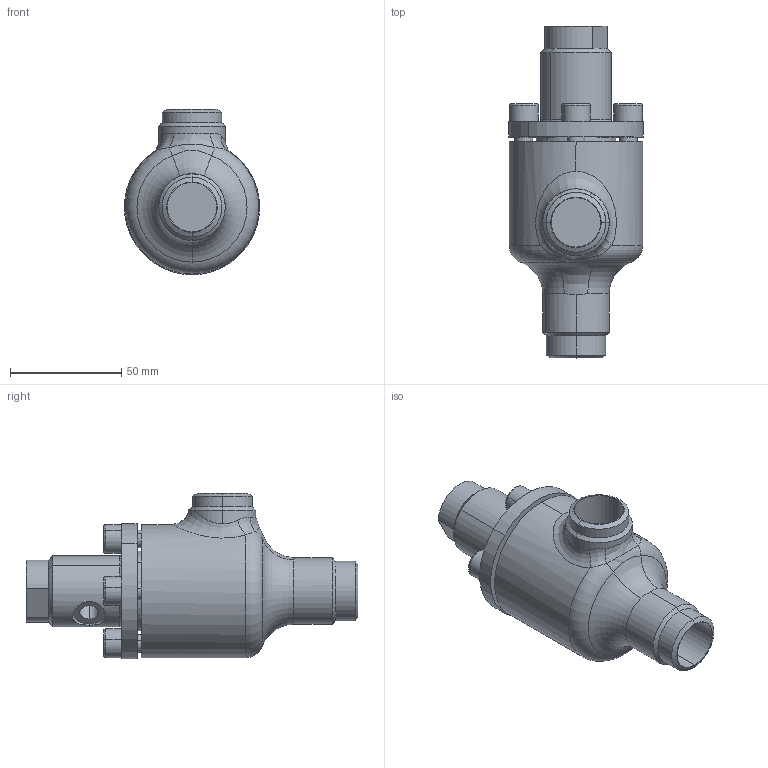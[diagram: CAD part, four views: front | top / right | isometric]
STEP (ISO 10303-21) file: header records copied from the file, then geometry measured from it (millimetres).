
FILE_DESCRIPTION (( 'STEP AP214' ), '1' );
FILE_NAME ('RVD4280xC11-DN20_1-3bar.STEP', '2007-01-10T14:59:58', ( 'Herr Grams' ), ( 'AWP GmbH' ), 'SwSTEP 2.0', 'SolidWorks 2002296', '' );
FILE_SCHEMA (( 'AUTOMOTIVE_DESIGN' ));
Length unit declared in the file: millimetre
Products named in the file (6): RVD4280xC11-DN20_1-3bar; Verschlußschr4270xE10-DN10-20_1-3bar_M10x  46_1bar; Gehäuse16400-DN020_Standard; RVD42700K10_Deck+Schr-DN10-20_1-3bar_Standard; Deckel42700K10-DN10-20_1-3bar_PS40_Standard; Zylinderschraube-DIN912_M 8x 16
Assembly tree (8 placements, depth 3):
  RVD4280xC11-DN20_1-3bar
    Gehäuse16400-DN020_Standard
    Verschlußschr4270xE10-DN10-20_1-3bar_M10x  46_1bar
    RVD42700K10_Deck+Schr-DN10-20_1-3bar_Standard
      Zylinderschraube-DIN912_M 8x 16  x4
      Deckel42700K10-DN10-20_1-3bar_PS40_Standard
Bounding box: 60.77 x 149.5 x 74.38 mm (x, y, z)
Volume: 227370.6 mm3; surface area: 49952.3 mm2
Topology: 7 solids, 7 shells, 183 faces, 389 edges, 243 vertices
Faces by surface type: cylinder 73, plane 65, cone 25, torus 13, bspline 7
Entity records: 13347 total; most frequent: CARTESIAN_POINT 10072, DIRECTION 670, ORIENTED_EDGE 550, AXIS2_PLACEMENT_3D 284, EDGE_CURVE 275, VERTEX_POINT 171, EDGE_LOOP 158, CIRCLE 150
